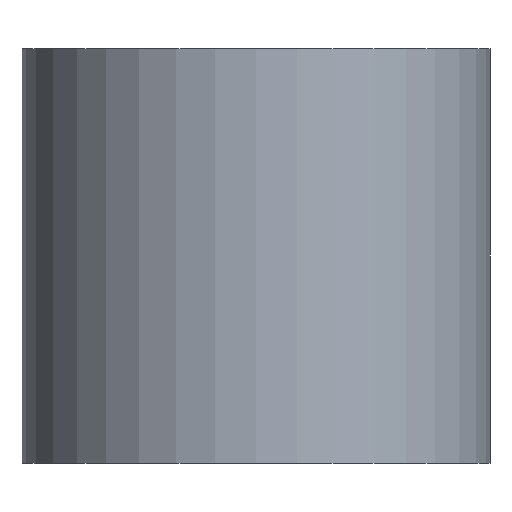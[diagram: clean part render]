
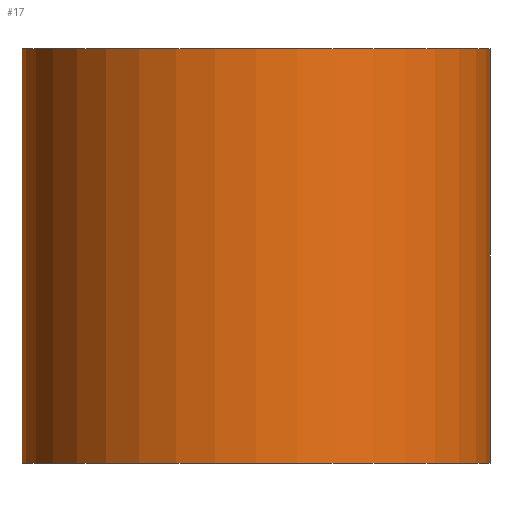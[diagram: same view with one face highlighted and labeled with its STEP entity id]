
A CAD part, front view. The second image highlights one B-rep face of the part: STEP entity #17.
In plain terms, the highlighted cylindrical face has radius 35 mm (diameter 70 mm), a full revolution.
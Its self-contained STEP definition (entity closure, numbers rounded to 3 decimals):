
#17 = ADVANCED_FACE('',(#18),#32,.T.);
#18 = FACE_BOUND('',#19,.F.);
#19 = EDGE_LOOP('',(#20,#50,#77,#78));
#20 = ORIENTED_EDGE('',*,*,#21,.T.);
#21 = EDGE_CURVE('',#22,#24,#26,.T.);
#22 = VERTEX_POINT('',#23);
#23 = CARTESIAN_POINT('',(35.,0.,-31.));
#24 = VERTEX_POINT('',#25);
#25 = CARTESIAN_POINT('',(35.,0.,31.));
#26 = SEAM_CURVE('',#27,(#31,#43),.PCURVE_S1.);
#27 = LINE('',#28,#29);
#28 = CARTESIAN_POINT('',(35.,0.,-31.));
#29 = VECTOR('',#30,1.);
#30 = DIRECTION('',(0.,0.,1.));
#31 = PCURVE('',#32,#37);
#32 = CYLINDRICAL_SURFACE('',#33,35.);
#33 = AXIS2_PLACEMENT_3D('',#34,#35,#36);
#34 = CARTESIAN_POINT('',(0.,0.,-31.));
#35 = DIRECTION('',(-0.,-0.,-1.));
#36 = DIRECTION('',(1.,0.,0.));
#37 = DEFINITIONAL_REPRESENTATION('',(#38),#42);
#38 = LINE('',#39,#40);
#39 = CARTESIAN_POINT('',(-0.,0.));
#40 = VECTOR('',#41,1.);
#41 = DIRECTION('',(-0.,-1.));
#42 = ( GEOMETRIC_REPRESENTATION_CONTEXT(2) 
PARAMETRIC_REPRESENTATION_CONTEXT() REPRESENTATION_CONTEXT('2D SPACE',''
  ) );
#43 = PCURVE('',#32,#44);
#44 = DEFINITIONAL_REPRESENTATION('',(#45),#49);
#45 = LINE('',#46,#47);
#46 = CARTESIAN_POINT('',(-6.283,0.));
#47 = VECTOR('',#48,1.);
#48 = DIRECTION('',(-0.,-1.));
#49 = ( GEOMETRIC_REPRESENTATION_CONTEXT(2) 
PARAMETRIC_REPRESENTATION_CONTEXT() REPRESENTATION_CONTEXT('2D SPACE',''
  ) );
#50 = ORIENTED_EDGE('',*,*,#51,.T.);
#51 = EDGE_CURVE('',#24,#24,#52,.T.);
#52 = SURFACE_CURVE('',#53,(#58,#65),.PCURVE_S1.);
#53 = CIRCLE('',#54,35.);
#54 = AXIS2_PLACEMENT_3D('',#55,#56,#57);
#55 = CARTESIAN_POINT('',(0.,0.,31.));
#56 = DIRECTION('',(0.,0.,1.));
#57 = DIRECTION('',(1.,0.,0.));
#58 = PCURVE('',#32,#59);
#59 = DEFINITIONAL_REPRESENTATION('',(#60),#64);
#60 = LINE('',#61,#62);
#61 = CARTESIAN_POINT('',(-0.,-62.));
#62 = VECTOR('',#63,1.);
#63 = DIRECTION('',(-1.,0.));
#64 = ( GEOMETRIC_REPRESENTATION_CONTEXT(2) 
PARAMETRIC_REPRESENTATION_CONTEXT() REPRESENTATION_CONTEXT('2D SPACE',''
  ) );
#65 = PCURVE('',#66,#71);
#66 = PLANE('',#67);
#67 = AXIS2_PLACEMENT_3D('',#68,#69,#70);
#68 = CARTESIAN_POINT('',(0.,0.,31.));
#69 = DIRECTION('',(0.,0.,1.));
#70 = DIRECTION('',(1.,0.,-0.));
#71 = DEFINITIONAL_REPRESENTATION('',(#72),#76);
#72 = CIRCLE('',#73,35.);
#73 = AXIS2_PLACEMENT_2D('',#74,#75);
#74 = CARTESIAN_POINT('',(0.,0.));
#75 = DIRECTION('',(1.,0.));
#76 = ( GEOMETRIC_REPRESENTATION_CONTEXT(2) 
PARAMETRIC_REPRESENTATION_CONTEXT() REPRESENTATION_CONTEXT('2D SPACE',''
  ) );
#77 = ORIENTED_EDGE('',*,*,#21,.F.);
#78 = ORIENTED_EDGE('',*,*,#79,.F.);
#79 = EDGE_CURVE('',#22,#22,#80,.T.);
#80 = SURFACE_CURVE('',#81,(#86,#93),.PCURVE_S1.);
#81 = CIRCLE('',#82,35.);
#82 = AXIS2_PLACEMENT_3D('',#83,#84,#85);
#83 = CARTESIAN_POINT('',(0.,0.,-31.));
#84 = DIRECTION('',(0.,0.,1.));
#85 = DIRECTION('',(1.,0.,0.));
#86 = PCURVE('',#32,#87);
#87 = DEFINITIONAL_REPRESENTATION('',(#88),#92);
#88 = LINE('',#89,#90);
#89 = CARTESIAN_POINT('',(-0.,0.));
#90 = VECTOR('',#91,1.);
#91 = DIRECTION('',(-1.,0.));
#92 = ( GEOMETRIC_REPRESENTATION_CONTEXT(2) 
PARAMETRIC_REPRESENTATION_CONTEXT() REPRESENTATION_CONTEXT('2D SPACE',''
  ) );
#93 = PCURVE('',#94,#99);
#94 = PLANE('',#95);
#95 = AXIS2_PLACEMENT_3D('',#96,#97,#98);
#96 = CARTESIAN_POINT('',(0.,0.,-31.));
#97 = DIRECTION('',(0.,0.,1.));
#98 = DIRECTION('',(1.,0.,-0.));
#99 = DEFINITIONAL_REPRESENTATION('',(#100),#104);
#100 = CIRCLE('',#101,35.);
#101 = AXIS2_PLACEMENT_2D('',#102,#103);
#102 = CARTESIAN_POINT('',(0.,0.));
#103 = DIRECTION('',(1.,0.));
#104 = ( GEOMETRIC_REPRESENTATION_CONTEXT(2) 
PARAMETRIC_REPRESENTATION_CONTEXT() REPRESENTATION_CONTEXT('2D SPACE',''
  ) );
